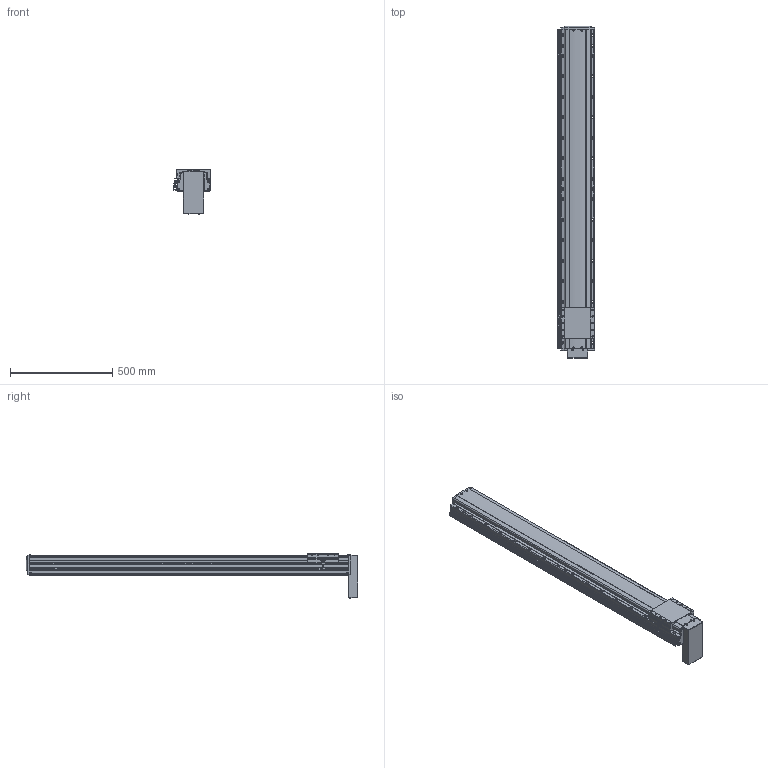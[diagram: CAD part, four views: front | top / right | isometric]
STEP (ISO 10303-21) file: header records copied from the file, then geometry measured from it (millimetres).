
FILE_DESCRIPTION(('STEP AP214'),'1');
FILE_NAME('Z:/Web/3D/PSA165/STP/PSA165-1300 (3D)/PSA165ㅁㅁ-1300PB+3SL.stp','2014-06-24T10:43:42',(' '),(' '),'Spatial InterOp 3D',' ',' ');
FILE_SCHEMA(('automotive_design'));
Length unit declared in the file: millimetre
Products named in the file (47): 스크루 : Round - M4.0 x 12.0; RRCV-PA160; BASE; 스크루 : Round - M4.0 x 10.0; RN15; Screw 20; SLIDE; FRCV; MTPL CV- PB; 스크루 : Round - M3.0 x 6.0; 1; 2; M3.0 x 6.0; SRL-16x17-360L; SGD-SAN150; EE-SX674; SBK-SX674-352; BHCS M4.0 x 10.0
Bounding box: 181 x 1620.8 x 215.96 mm (x, y, z)
Volume: 22683071.8 mm3; surface area: 1539541.8 mm2
Topology: 47 solids, 47 shells, 2808 faces, 7496 edges, 4800 vertices
Faces by surface type: plane 1557, cylinder 876, cone 262, sphere 72, bspline 25, torus 16
Entity records: 113691 total; most frequent: CARTESIAN_POINT 19605, DIRECTION 15019, ORIENTED_EDGE 14652, EDGE_CURVE 7326, AXIS2_PLACEMENT_3D 5114, VERTEX_POINT 4800, LINE 4791, VECTOR 4791
